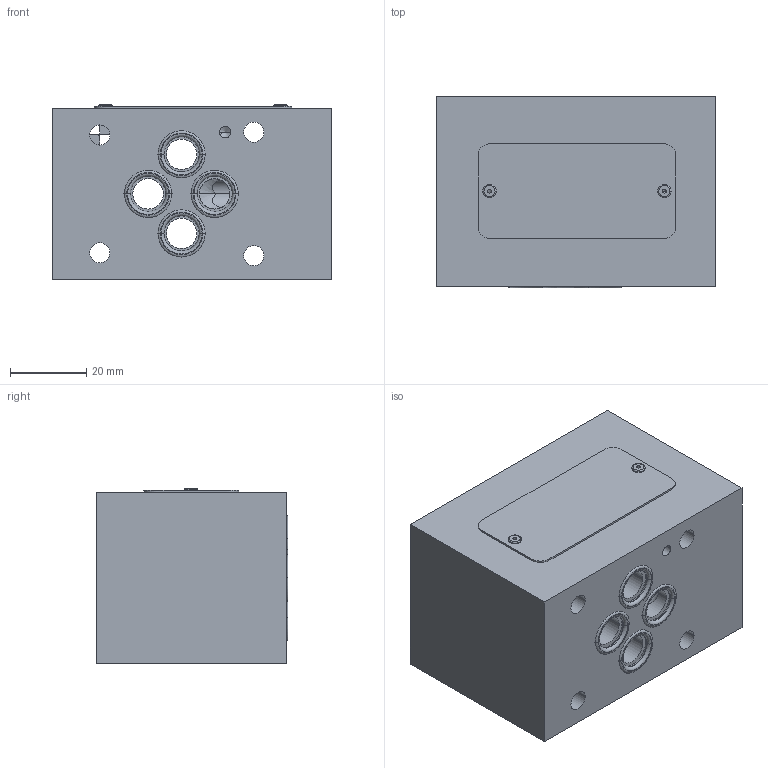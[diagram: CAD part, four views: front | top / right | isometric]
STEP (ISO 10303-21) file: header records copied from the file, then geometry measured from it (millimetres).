
FILE_DESCRIPTION((''),'2;1');
FILE_NAME('1000058372_ASM','2023-10-12T',('l.soukupova'),(''),'PRO/ENGINEER BY PARAMETRIC TECHNOLOGY CORPORATION, 2015440','PRO/ENGINEER BY PARAMETRIC TECHNOLOGY CORPORATION, 2015440','');
FILE_SCHEMA(('AUTOMOTIVE_DESIGN { 1 0 10303 214 1 1 1 1 }'));
Length unit declared in the file: millimetre
Products named in the file (8): 30677601; RD_LABEL_25X52_159703; AF_1932_16485; ORAR00012_201524_AF0; ORAR00012_201524_AF1; ORAR00012_201524_AF2; ORAR00012_201524_AF3; 1000058372_ASM
Assembly tree (8 placements, depth 2):
  1000058372_ASM
    30677601
    RD_LABEL_25X52_159703
    AF_1932_16485  x2
    ORAR00012_201524_AF0
    ORAR00012_201524_AF1
    ORAR00012_201524_AF2
    ORAR00012_201524_AF3
Bounding box: 73.5 x 50.38 x 46 mm (x, y, z)
Volume: 144874.3 mm3; surface area: 32094.5 mm2
Topology: 8 solids, 11 shells, 167 faces, 510 edges, 433 vertices
Faces by surface type: cylinder 80, torus 36, plane 34, cone 17
Entity records: 9125 total; most frequent: CARTESIAN_POINT 1408, DIRECTION 1124, ORIENTED_EDGE 698, PRESENTATION_STYLE_ASSIGNMENT 623, STYLED_ITEM 535, CURVE_STYLE 526, AXIS2_PLACEMENT_3D 455, EDGE_CURVE 355
